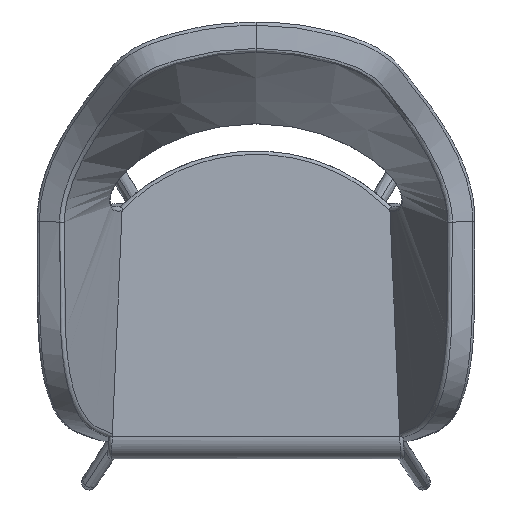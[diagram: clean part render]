
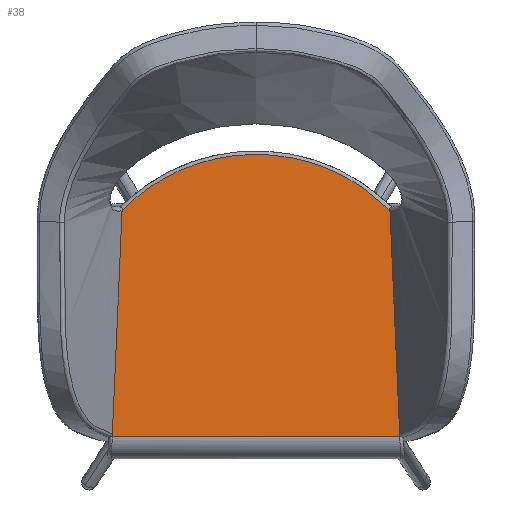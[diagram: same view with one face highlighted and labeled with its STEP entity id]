
A CAD part, top view. The second image highlights one B-rep face of the part: STEP entity #38.
In plain terms, the highlighted planar face has unit normal (0, 0.026, 1).
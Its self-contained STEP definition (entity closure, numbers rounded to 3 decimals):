
#38=ADVANCED_FACE('',(#152),#1687,.T.);
#152=FACE_OUTER_BOUND('',#266,.T.);
#266=EDGE_LOOP('',(#385,#386,#387,#388,#389,#390));
#385=ORIENTED_EDGE('',*,*,#940,.T.);
#386=ORIENTED_EDGE('',*,*,#970,.T.);
#387=ORIENTED_EDGE('',*,*,#963,.T.);
#388=ORIENTED_EDGE('',*,*,#966,.T.);
#389=ORIENTED_EDGE('',*,*,#957,.T.);
#390=ORIENTED_EDGE('',*,*,#919,.F.);
#919=EDGE_CURVE('',#1427,#1430,#1726,.T.);
#940=EDGE_CURVE('',#1427,#1428,#1220,.T.);
#957=EDGE_CURVE('',#1429,#1430,#1237,.T.);
#963=EDGE_CURVE('',#1431,#1432,#1243,.T.);
#966=EDGE_CURVE('',#1432,#1429,#1246,.T.);
#970=EDGE_CURVE('',#1428,#1431,#1250,.T.);
#1220=(
BOUNDED_CURVE()
B_SPLINE_CURVE(1,(#2354,#2355),.UNSPECIFIED.,.F.,.F.)
B_SPLINE_CURVE_WITH_KNOTS((2,2),(0.217,311.552),
 .UNSPECIFIED.)
CURVE()
GEOMETRIC_REPRESENTATION_ITEM()
RATIONAL_B_SPLINE_CURVE((1.,1.))
REPRESENTATION_ITEM('')
);
#1237=(
BOUNDED_CURVE()
B_SPLINE_CURVE(1,(#2433,#2434),.UNSPECIFIED.,.F.,.F.)
B_SPLINE_CURVE_WITH_KNOTS((2,2),(0.,311.335),.UNSPECIFIED.)
CURVE()
GEOMETRIC_REPRESENTATION_ITEM()
RATIONAL_B_SPLINE_CURVE((1.,1.))
REPRESENTATION_ITEM('')
);
#1243=(
BOUNDED_CURVE()
B_SPLINE_CURVE(3,(#2456,#2457,#2458,#2459,#2460,#2461,#2462,#2463,#2464),
 .UNSPECIFIED.,.F.,.F.)
B_SPLINE_CURVE_WITH_KNOTS((4,1,1,1,1,1,4),(0.,87.476,
145.46,203.877,262.294,320.278,407.755),
 .UNSPECIFIED.)
CURVE()
GEOMETRIC_REPRESENTATION_ITEM()
RATIONAL_B_SPLINE_CURVE((1.,1.,1.,1.,1.,1.,
1.,1.,1.))
REPRESENTATION_ITEM('')
);
#1246=(
BOUNDED_CURVE()
B_SPLINE_CURVE(3,(#2472,#2473,#2474,#2475),.UNSPECIFIED.,.F.,.F.)
B_SPLINE_CURVE_WITH_KNOTS((4,4),(0.,3.725),.UNSPECIFIED.)
CURVE()
GEOMETRIC_REPRESENTATION_ITEM()
RATIONAL_B_SPLINE_CURVE((1.,1.,1.,1.))
REPRESENTATION_ITEM('')
);
#1250=(
BOUNDED_CURVE()
B_SPLINE_CURVE(3,(#2488,#2489,#2490,#2491),.UNSPECIFIED.,.F.,.F.)
B_SPLINE_CURVE_WITH_KNOTS((4,4),(0.,3.725),
 .UNSPECIFIED.)
CURVE()
GEOMETRIC_REPRESENTATION_ITEM()
RATIONAL_B_SPLINE_CURVE((1.,1.,1.,1.))
REPRESENTATION_ITEM('')
);
#1427=VERTEX_POINT('',#2254);
#1428=VERTEX_POINT('',#2255);
#1429=VERTEX_POINT('',#2256);
#1430=VERTEX_POINT('',#2257);
#1431=VERTEX_POINT('',#2258);
#1432=VERTEX_POINT('',#2259);
#1687=PLANE('',#1892);
#1726=B_SPLINE_CURVE_WITH_KNOTS('',1,(#2284,#2285),.UNSPECIFIED.,.F.,.F.,
(2,2),(6.309,403.691),.UNSPECIFIED.);
#1892=AXIS2_PLACEMENT_3D('',#1958,#1917,$);
#1917=DIRECTION('',(0.,0.026,1.));
#1958=CARTESIAN_POINT('',(256.25,269.829,453.486));
#2254=CARTESIAN_POINT('',(198.691,-178.306,465.24));
#2255=CARTESIAN_POINT('',(185.173,132.628,457.085));
#2256=CARTESIAN_POINT('',(-185.173,132.628,457.085));
#2257=CARTESIAN_POINT('',(-198.691,-178.306,465.24));
#2258=CARTESIAN_POINT('',(183.703,135.957,456.997));
#2259=CARTESIAN_POINT('',(-183.703,135.957,456.997));
#2284=CARTESIAN_POINT('',(198.691,-178.306,465.24));
#2285=CARTESIAN_POINT('',(-198.691,-178.306,465.24));
#2354=CARTESIAN_POINT('',(198.691,-178.306,465.24));
#2355=CARTESIAN_POINT('',(185.173,132.628,457.085));
#2433=CARTESIAN_POINT('',(-185.173,132.628,457.085));
#2434=CARTESIAN_POINT('',(-198.691,-178.306,465.24));
#2456=CARTESIAN_POINT('',(183.703,135.957,456.997));
#2457=CARTESIAN_POINT('',(163.031,156.517,456.458));
#2458=CARTESIAN_POINT('',(122.845,184.84,455.715));
#2459=CARTESIAN_POINT('',(58.271,207.337,455.125));
#2460=CARTESIAN_POINT('',(0.,213.901,454.953));
#2461=CARTESIAN_POINT('',(-58.271,207.337,455.125));
#2462=CARTESIAN_POINT('',(-122.845,184.84,455.715));
#2463=CARTESIAN_POINT('',(-163.031,156.517,456.458));
#2464=CARTESIAN_POINT('',(-183.703,135.957,456.997));
#2472=CARTESIAN_POINT('',(-183.703,135.957,456.997));
#2473=CARTESIAN_POINT('',(-184.587,135.083,457.02));
#2474=CARTESIAN_POINT('',(-185.123,133.87,457.052));
#2475=CARTESIAN_POINT('',(-185.173,132.628,457.085));
#2488=CARTESIAN_POINT('',(185.173,132.628,457.085));
#2489=CARTESIAN_POINT('',(185.123,133.87,457.052));
#2490=CARTESIAN_POINT('',(184.587,135.083,457.02));
#2491=CARTESIAN_POINT('',(183.703,135.957,456.997));
